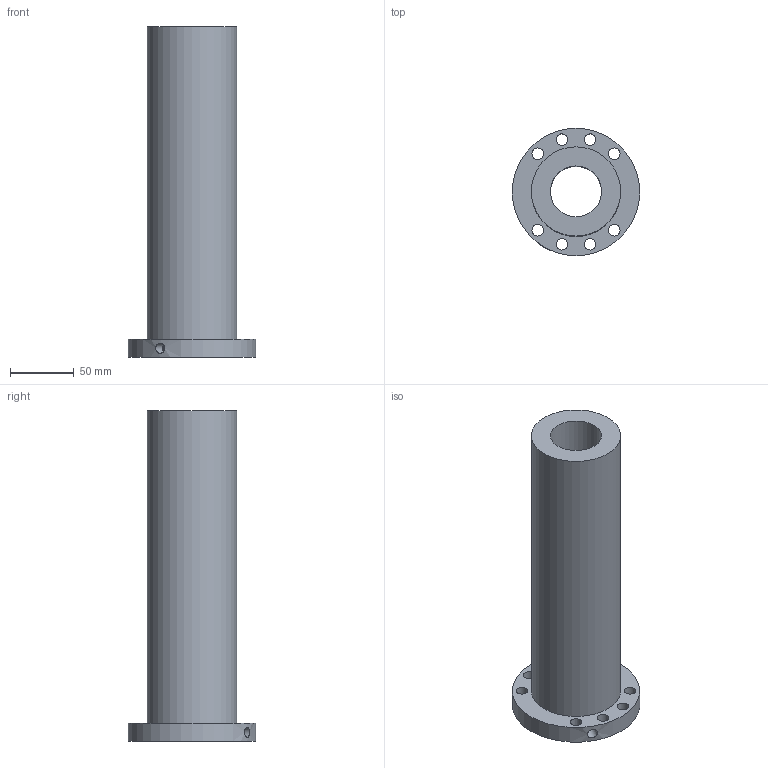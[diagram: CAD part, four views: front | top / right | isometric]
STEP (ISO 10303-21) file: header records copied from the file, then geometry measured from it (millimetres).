
FILE_DESCRIPTION(/* description */ (''),/* implementation_level */ '2;1');
FILE_NAME(/* name */ '40-25K4_635',/* time_stamp */ '2007-10-15T12:53:57+08:00',/* author */ (''),/* organization */ (''),/* preprocessor_version */ 'ST-DEVELOPER v11',/* originating_system */ 'UGS - NX 5.0',/* authorisation */ '');
FILE_SCHEMA (('CONFIG_CONTROL_DESIGN'));
Length unit declared in the file: millimetre
Products named in the file (1): 40-25K4_635
Bounding box: 100 x 100 x 259 mm (x, y, z)
Volume: 719164.8 mm3; surface area: 106738.8 mm2
Topology: 1 solids, 1 shells, 17 faces, 40 edges, 27 vertices
Faces by surface type: cylinder 13, plane 4
Full cylindrical faces by diameter (mm): 6 x1, 8 x1, 9 x8, 40 x1, 70 x1, 100 x1
Entity records: 668 total; most frequent: CARTESIAN_POINT 184, DIRECTION 84, FACE_BOUND 52, EDGE_LOOP 52, ORIENTED_EDGE 52, AXIS2_PLACEMENT_3D 42, VERTEX_POINT 26, EDGE_CURVE 26
